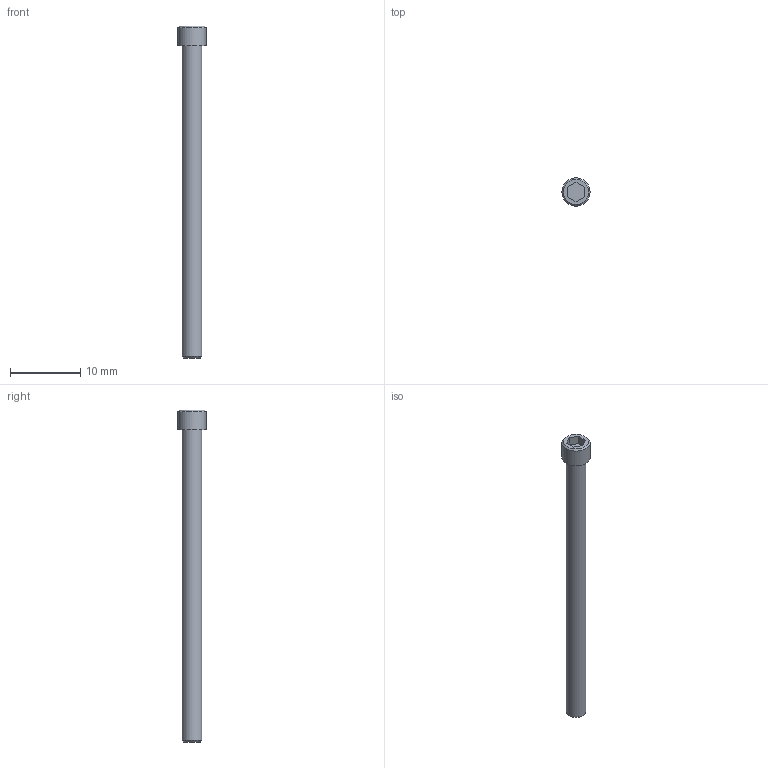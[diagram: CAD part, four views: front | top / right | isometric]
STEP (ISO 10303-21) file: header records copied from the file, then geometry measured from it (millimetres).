
FILE_DESCRIPTION((''),'2;1');
FILE_NAME('C:\Users\Stan\Desktop\import\SHCS 4-40 UNCx1.75.ipt.step','2011-08-18T17:44:36',(''),(''),'Autodesk Inventor 2012','Autodesk Inventor 2012','');
FILE_SCHEMA(('AUTOMOTIVE_DESIGN { 1 0 10303 214 1 1 1 1 }'));
Length unit declared in the file: inch
Products named in the file (1): SHCS 4-40 UNCx1.75
Bounding box: 4.01 x 4.01 x 47.24 mm (x, y, z)
Volume: 310.9 mm3; surface area: 465.5 mm2
Topology: 1 solids, 1 shells, 14 faces, 28 edges, 18 vertices
Faces by surface type: plane 10, cone 2, cylinder 2
Full cylindrical faces by diameter (mm): 2.845 x1, 4.013 x1
Entity records: 391 total; most frequent: DIRECTION 60, CARTESIAN_POINT 57, ORIENTED_EDGE 48, EDGE_CURVE 24, AXIS2_PLACEMENT_3D 21, EDGE_LOOP 20, VERTEX_POINT 18, VECTOR 18
